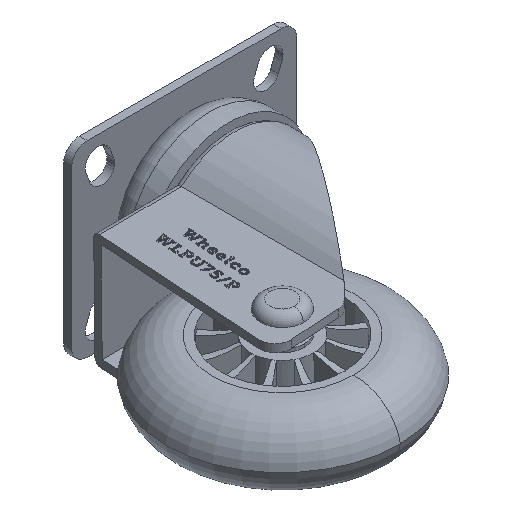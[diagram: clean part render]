
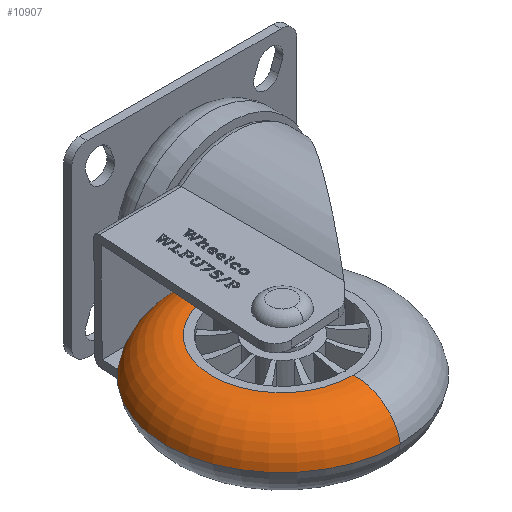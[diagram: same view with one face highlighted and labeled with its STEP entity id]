
A CAD part, isometric view. The second image highlights one B-rep face of the part: STEP entity #10907.
In plain terms, the highlighted toroidal (fillet/blend) face has major radius 23.715 mm and minor radius 14 mm.
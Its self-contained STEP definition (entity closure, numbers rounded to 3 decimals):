
#1172 = CARTESIAN_POINT ( 'NONE',  ( 0., -2.447, 0. ) ) ;
#1930 = VERTEX_POINT ( 'NONE', #19034 ) ;
#2424 = TOROIDAL_SURFACE ( 'NONE', #18447, 23.716, 14. ) ;
#2709 = EDGE_CURVE ( 'NONE', #4771, #1930, #11860, .T. ) ;
#4771 = VERTEX_POINT ( 'NONE', #12989 ) ;
#5172 = DIRECTION ( 'NONE',  ( 0., 0., -1. ) ) ;
#5241 = AXIS2_PLACEMENT_3D ( 'NONE', #22383, #22750, #16969 ) ;
#5738 = DIRECTION ( 'NONE',  ( 0., -1., 0. ) ) ;
#6026 = DIRECTION ( 'NONE',  ( 1., 0., 0. ) ) ;
#6445 = VERTEX_POINT ( 'NONE', #13673 ) ;
#6565 = VERTEX_POINT ( 'NONE', #23809 ) ;
#7991 = CIRCLE ( 'NONE', #16388, 37.5 ) ;
#8433 = CIRCLE ( 'NONE', #5241, 14. ) ;
#8592 = DIRECTION ( 'NONE',  ( 0., -1., 0. ) ) ;
#10867 = ORIENTED_EDGE ( 'NONE', *, *, #23010, .T. ) ;
#10907 = ADVANCED_FACE ( 'NONE', ( #15963 ), #2424, .T. ) ;
#10991 = EDGE_CURVE ( 'NONE', #6565, #6445, #8433, .T. ) ;
#11275 = ORIENTED_EDGE ( 'NONE', *, *, #2709, .F. ) ;
#11793 = DIRECTION ( 'NONE',  ( 0., 0., -1. ) ) ;
#11860 = CIRCLE ( 'NONE', #15062, 14. ) ;
#12626 = EDGE_CURVE ( 'NONE', #1930, #6445, #7991, .T. ) ;
#12989 = CARTESIAN_POINT ( 'NONE',  ( 0., 11.5, 22.5 ) ) ;
#13673 = CARTESIAN_POINT ( 'NONE',  ( 0., 0., -37.5 ) ) ;
#15062 = AXIS2_PLACEMENT_3D ( 'NONE', #22839, #6026, #11793 ) ;
#15963 = FACE_OUTER_BOUND ( 'NONE', #22293, .T. ) ;
#16231 = ORIENTED_EDGE ( 'NONE', *, *, #12626, .F. ) ;
#16388 = AXIS2_PLACEMENT_3D ( 'NONE', #18773, #5738, #24670 ) ;
#16969 = DIRECTION ( 'NONE',  ( 0., 0., 1. ) ) ;
#18360 = CIRCLE ( 'NONE', #21562, 22.5 ) ;
#18447 = AXIS2_PLACEMENT_3D ( 'NONE', #1172, #8592, #24013 ) ;
#18773 = CARTESIAN_POINT ( 'NONE',  ( 0., 0., 0. ) ) ;
#19034 = CARTESIAN_POINT ( 'NONE',  ( 0., 0., 37.5 ) ) ;
#20717 = DIRECTION ( 'NONE',  ( 0., -1., 0. ) ) ;
#21562 = AXIS2_PLACEMENT_3D ( 'NONE', #22493, #20717, #5172 ) ;
#22293 = EDGE_LOOP ( 'NONE', ( #11275, #10867, #22441, #16231 ) ) ;
#22383 = CARTESIAN_POINT ( 'NONE',  ( 0., -2.447, -23.716 ) ) ;
#22441 = ORIENTED_EDGE ( 'NONE', *, *, #10991, .T. ) ;
#22493 = CARTESIAN_POINT ( 'NONE',  ( 0., 11.5, 0. ) ) ;
#22750 = DIRECTION ( 'NONE',  ( -1., 0., 0. ) ) ;
#22839 = CARTESIAN_POINT ( 'NONE',  ( 0., -2.447, 23.716 ) ) ;
#23010 = EDGE_CURVE ( 'NONE', #4771, #6565, #18360, .T. ) ;
#23809 = CARTESIAN_POINT ( 'NONE',  ( 0., 11.5, -22.5 ) ) ;
#24013 = DIRECTION ( 'NONE',  ( 0., 0., -1. ) ) ;
#24670 = DIRECTION ( 'NONE',  ( 0., 0., -1. ) ) ;
